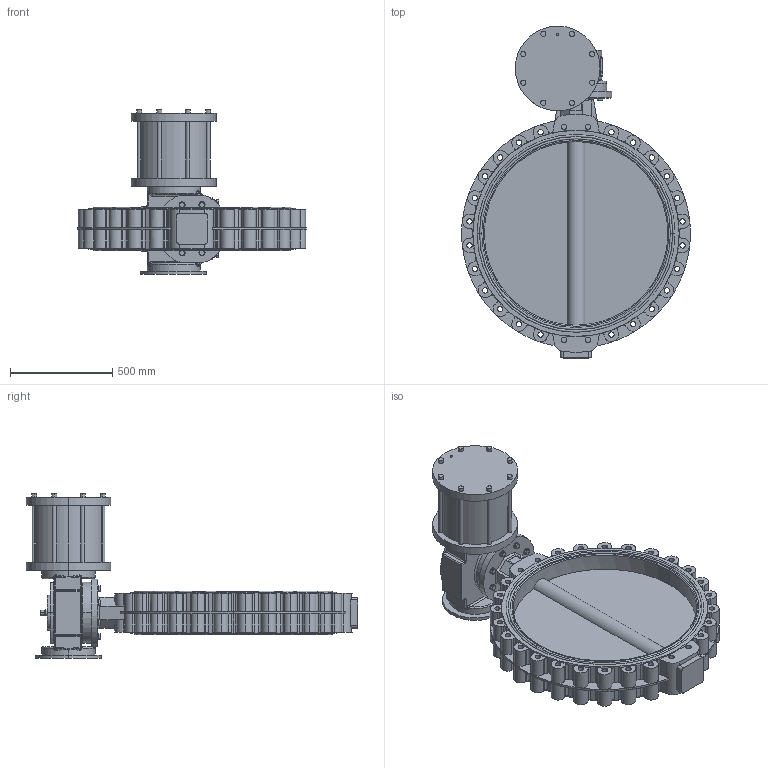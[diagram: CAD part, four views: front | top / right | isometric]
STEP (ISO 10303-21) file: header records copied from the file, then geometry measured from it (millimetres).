
FILE_DESCRIPTION (( 'STEP AP214' ), '1' );
FILE_NAME ('67728.step', '2020-10-26T07:15:42', ( '' ), ( '' ), 'SwSTEP 2.0', 'SolidWorks 2019', '' );
FILE_SCHEMA (( 'AUTOMOTIVE_DESIGN' ));
Length unit declared in the file: millimetre
Products named in the file (6): Passfeder DIN 6885 A_20_12x100; SY01F25-350 DA; 6kt-Schr DIN 933_M16x55; U-Scheibe DIN 125 A_M16; TL20-0900_M01; 67728
Assembly tree (19 placements, depth 2):
  67728
    TL20-0900_M01
    SY01F25-350 DA
    6kt-Schr DIN 933_M16x55  x8
    U-Scheibe DIN 125 A_M16  x8
    Passfeder DIN 6885 A_20_12x100
Bounding box: 1119.61 x 1624.5 x 804 mm (x, y, z)
Volume: 143780727.8 mm3; surface area: 5815167.3 mm2
Topology: 19 solids, 19 shells, 1285 faces, 3229 edges, 2010 vertices
Faces by surface type: cylinder 557, plane 500, cone 91, bspline 83, torus 54
Entity records: 39647 total; most frequent: CARTESIAN_POINT 11425, DIRECTION 5850, ORIENTED_EDGE 5430, EDGE_CURVE 2715, AXIS2_PLACEMENT_3D 2340, VERTEX_POINT 1730, CIRCLE 1347, EDGE_LOOP 1179
